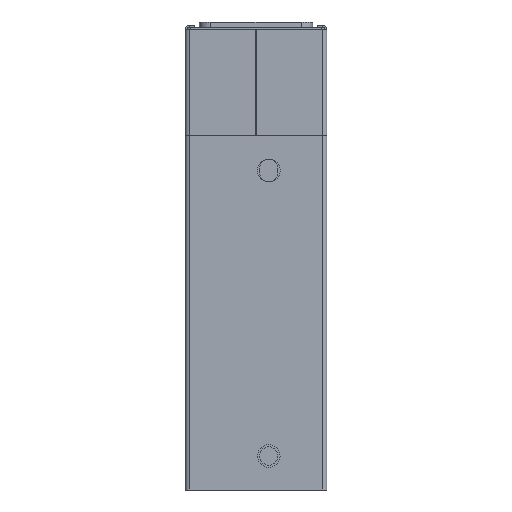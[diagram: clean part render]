
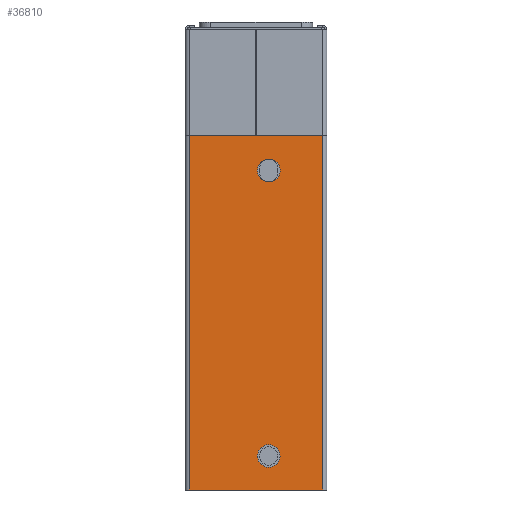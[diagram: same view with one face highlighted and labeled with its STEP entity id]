
A CAD part, front view. The second image highlights one B-rep face of the part: STEP entity #36810.
In plain terms, the highlighted planar face has unit normal (0, -1, 0).
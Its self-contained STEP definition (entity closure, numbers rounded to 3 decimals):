
#1534 = EDGE_CURVE ( 'NONE', #24585, #4071, #15649, .T. ) ;
#1986 = EDGE_CURVE ( 'NONE', #18742, #10149, #28411, .T. ) ;
#2377 = CIRCLE ( 'NONE', #2380, 3.25 ) ;
#2380 = AXIS2_PLACEMENT_3D ( 'NONE', #3201, #3203, #3205 ) ;
#3201 = CARTESIAN_POINT ( 'NONE',  ( 4.5, 0., 49.5 ) ) ;
#3203 = DIRECTION ( 'NONE',  ( 0., -1., 0. ) ) ;
#3205 = DIRECTION ( 'NONE',  ( 0., 0., -1. ) ) ;
#4071 = VERTEX_POINT ( 'NONE', #29382 ) ;
#4962 = AXIS2_PLACEMENT_3D ( 'NONE', #40042, #40043, #40044 ) ;
#4964 = CIRCLE ( 'NONE', #4962, 4. ) ;
#5013 = CIRCLE ( 'NONE', #5850, 4. ) ;
#5059 = AXIS2_PLACEMENT_3D ( 'NONE', #33743, #33744, #33745 ) ;
#5109 = CIRCLE ( 'NONE', #5115, 4. ) ;
#5115 = AXIS2_PLACEMENT_3D ( 'NONE', #18661, #18663, #18665 ) ;
#5368 = VECTOR ( 'NONE', #29821, 1000. ) ;
#5432 = CIRCLE ( 'NONE', #5059, 3.25 ) ;
#5523 = VECTOR ( 'NONE', #33749, 1000. ) ;
#5547 = AXIS2_PLACEMENT_3D ( 'NONE', #18771, #18773, #18775 ) ;
#5838 = CIRCLE ( 'NONE', #5547, 3.25 ) ;
#5850 = AXIS2_PLACEMENT_3D ( 'NONE', #33710, #33711, #33712 ) ;
#7338 = EDGE_LOOP ( 'NONE', ( #25142, #25141 ) ) ;
#8248 = VERTEX_POINT ( 'NONE', #40529 ) ;
#8268 = VERTEX_POINT ( 'NONE', #40549 ) ;
#10075 = VERTEX_POINT ( 'NONE', #40843 ) ;
#10149 = VERTEX_POINT ( 'NONE', #40906 ) ;
#10389 = VERTEX_POINT ( 'NONE', #41146 ) ;
#13568 = CARTESIAN_POINT ( 'NONE',  ( 4.5, 0., 50.3 ) ) ;
#13569 = DIRECTION ( 'NONE',  ( 0., -1., 0. ) ) ;
#13570 = DIRECTION ( 'NONE',  ( 0., 0., -1. ) ) ;
#15649 = CIRCLE ( 'NONE', #15693, 4. ) ;
#15693 = AXIS2_PLACEMENT_3D ( 'NONE', #13568, #13569, #13570 ) ;
#16101 = EDGE_CURVE ( 'NONE', #8268, #8248, #25766, .T. ) ;
#16570 = EDGE_CURVE ( 'NONE', #24615, #24662, #4964, .T. ) ;
#18661 = CARTESIAN_POINT ( 'NONE',  ( 4.5, 0., -50.5 ) ) ;
#18663 = DIRECTION ( 'NONE',  ( 0., -1., 0. ) ) ;
#18665 = DIRECTION ( 'NONE',  ( 0., 0., -1. ) ) ;
#18742 = VERTEX_POINT ( 'NONE', #22115 ) ;
#18771 = CARTESIAN_POINT ( 'NONE',  ( 4.5, 0., 49.5 ) ) ;
#18773 = DIRECTION ( 'NONE',  ( 0., -1., 0. ) ) ;
#18775 = DIRECTION ( 'NONE',  ( 0., 0., -1. ) ) ;
#20857 = EDGE_LOOP ( 'NONE', ( #25154, #25146, #25148, #25147 ) ) ;
#20912 = EDGE_LOOP ( 'NONE', ( #25143, #25153, #25155, #25144, #25145 ) ) ;
#22115 = CARTESIAN_POINT ( 'NONE',  ( -23.5, 0., -62.5 ) ) ;
#23358 = AXIS2_PLACEMENT_3D ( 'NONE', #29738, #29732, #29744 ) ;
#24585 = VERTEX_POINT ( 'NONE', #33360 ) ;
#24615 = VERTEX_POINT ( 'NONE', #33390 ) ;
#24662 = VERTEX_POINT ( 'NONE', #33437 ) ;
#24677 = VERTEX_POINT ( 'NONE', #33452 ) ;
#25141 = ORIENTED_EDGE ( 'NONE', *, *, #16570, .F. ) ;
#25142 = ORIENTED_EDGE ( 'NONE', *, *, #37433, .F. ) ;
#25143 = ORIENTED_EDGE ( 'NONE', *, *, #1534, .F. ) ;
#25144 = ORIENTED_EDGE ( 'NONE', *, *, #37461, .F. ) ;
#25145 = ORIENTED_EDGE ( 'NONE', *, *, #37472, .F. ) ;
#25146 = ORIENTED_EDGE ( 'NONE', *, *, #43038, .F. ) ;
#25147 = ORIENTED_EDGE ( 'NONE', *, *, #37474, .T. ) ;
#25148 = ORIENTED_EDGE ( 'NONE', *, *, #16101, .F. ) ;
#25153 = ORIENTED_EDGE ( 'NONE', *, *, #43335, .F. ) ;
#25154 = ORIENTED_EDGE ( 'NONE', *, *, #1986, .T. ) ;
#25155 = ORIENTED_EDGE ( 'NONE', *, *, #37441, .F. ) ;
#25766 = LINE ( 'NONE', #25767, #36475 ) ;
#25767 = CARTESIAN_POINT ( 'NONE',  ( -23.5, 0., 62.5 ) ) ;
#25768 = DIRECTION ( 'NONE',  ( 1., 0., 0. ) ) ;
#28411 = LINE ( 'NONE', #28413, #42804 ) ;
#28413 = CARTESIAN_POINT ( 'NONE',  ( -23.5, 0., -62.5 ) ) ;
#28414 = DIRECTION ( 'NONE',  ( 1., 0., 0. ) ) ;
#29382 = CARTESIAN_POINT ( 'NONE',  ( 5.754, 0., 54.098 ) ) ;
#29732 = DIRECTION ( 'NONE',  ( 0., 1., 0. ) ) ;
#29734 = FACE_BOUND ( 'NONE', #20912, .T. ) ;
#29738 = CARTESIAN_POINT ( 'NONE',  ( -23.5, 0., 62.5 ) ) ;
#29739 = FACE_BOUND ( 'NONE', #7338, .T. ) ;
#29741 = FACE_OUTER_BOUND ( 'NONE', #20857, .T. ) ;
#29742 = PLANE ( 'NONE',  #23358 ) ;
#29744 = DIRECTION ( 'NONE',  ( 0., 0., 1. ) ) ;
#29805 = CARTESIAN_POINT ( 'NONE',  ( 23.5, 0., 62.5 ) ) ;
#29807 = LINE ( 'NONE', #29805, #5368 ) ;
#29821 = DIRECTION ( 'NONE',  ( 0., 0., -1. ) ) ;
#33360 = CARTESIAN_POINT ( 'NONE',  ( 5.754, 0., 46.502 ) ) ;
#33390 = CARTESIAN_POINT ( 'NONE',  ( 4.5, 0., -46.5 ) ) ;
#33437 = CARTESIAN_POINT ( 'NONE',  ( 4.5, 0., -54.5 ) ) ;
#33452 = CARTESIAN_POINT ( 'NONE',  ( 4.5, 0., 46.25 ) ) ;
#33710 = CARTESIAN_POINT ( 'NONE',  ( 4.5, 0., 50.3 ) ) ;
#33711 = DIRECTION ( 'NONE',  ( 0., -1., 0. ) ) ;
#33712 = DIRECTION ( 'NONE',  ( 0., 0., -1. ) ) ;
#33743 = CARTESIAN_POINT ( 'NONE',  ( 4.5, 0., 51.1 ) ) ;
#33744 = DIRECTION ( 'NONE',  ( 0., -1., 0. ) ) ;
#33745 = DIRECTION ( 'NONE',  ( 0., 0., -1. ) ) ;
#33747 = LINE ( 'NONE', #33748, #5523 ) ;
#33748 = CARTESIAN_POINT ( 'NONE',  ( -23.5, 0., 62.5 ) ) ;
#33749 = DIRECTION ( 'NONE',  ( 0., 0., -1. ) ) ;
#36475 = VECTOR ( 'NONE', #25768, 1000. ) ;
#36810 = ADVANCED_FACE ( 'NONE', ( #29739, #29734, #29741 ), #29742, .F. ) ;
#37433 = EDGE_CURVE ( 'NONE', #24662, #24615, #5109, .T. ) ;
#37441 = EDGE_CURVE ( 'NONE', #10389, #24677, #5838, .T. ) ;
#37461 = EDGE_CURVE ( 'NONE', #10075, #10389, #5013, .T. ) ;
#37472 = EDGE_CURVE ( 'NONE', #4071, #10075, #5432, .T. ) ;
#37474 = EDGE_CURVE ( 'NONE', #8268, #18742, #33747, .T. ) ;
#40042 = CARTESIAN_POINT ( 'NONE',  ( 4.5, 0., -50.5 ) ) ;
#40043 = DIRECTION ( 'NONE',  ( 0., -1., 0. ) ) ;
#40044 = DIRECTION ( 'NONE',  ( 0., 0., -1. ) ) ;
#40529 = CARTESIAN_POINT ( 'NONE',  ( 23.5, 0., 62.5 ) ) ;
#40549 = CARTESIAN_POINT ( 'NONE',  ( -23.5, 0., 62.5 ) ) ;
#40843 = CARTESIAN_POINT ( 'NONE',  ( 3.246, 0., 54.098 ) ) ;
#40906 = CARTESIAN_POINT ( 'NONE',  ( 23.5, 0., -62.5 ) ) ;
#41146 = CARTESIAN_POINT ( 'NONE',  ( 3.246, 0., 46.502 ) ) ;
#42804 = VECTOR ( 'NONE', #28414, 1000. ) ;
#43038 = EDGE_CURVE ( 'NONE', #8248, #10149, #29807, .T. ) ;
#43335 = EDGE_CURVE ( 'NONE', #24677, #24585, #2377, .T. ) ;
